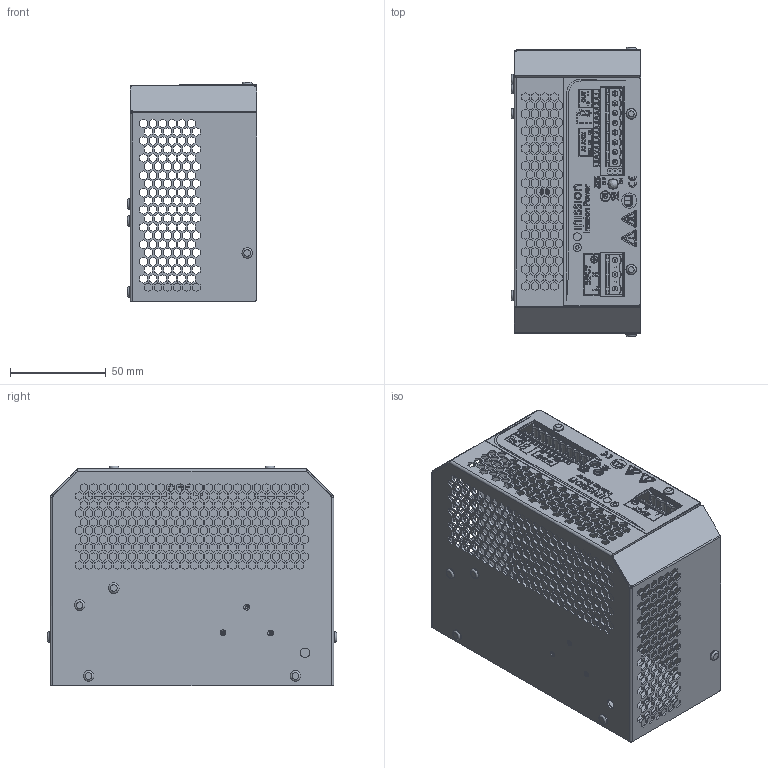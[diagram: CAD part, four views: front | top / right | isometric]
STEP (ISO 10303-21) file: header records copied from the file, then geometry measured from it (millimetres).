
FILE_DESCRIPTION (( 'STEP AP203' ), '1' );
FILE_NAME ('ADC-125W-3D-Model.STEP', '2026-05-19T12:12:42', ( '' ), ( '' ), 'SwSTEP 2.0', 'SolidWorks 2018', '' );
FILE_SCHEMA (( 'CONFIG_CONTROL_DESIGN' ));
Products named in the file (1): ADC-125W-3D-Model
Bounding box: 67.6 x 150.8 x 114.5 mm (x, y, z)
Volume: 88903.5 mm3; surface area: 174694.9 mm2
Topology: 94 solids, 94 shells, 5569 faces, 15662 edges, 10383 vertices
Faces by surface type: plane 4869, bspline 363, cylinder 230, cone 64, torus 43
Full cylindrical faces by diameter (mm): 0.138 x1, 0.38 x2, 0.731 x1, 1.85 x1, 2.5 x13, 2.8 x2, 3 x3, 3.3 x1, 3.5 x8, 3.8 x1, 4.25 x2, 4.9 x1, 5 x4, 5.5 x10, 7.938 x1
Entity records: 195653 total; most frequent: CARTESIAN_POINT 52523, ORIENTED_EDGE 30950, DIRECTION 25597, EDGE_CURVE 15475, LINE 14119, VECTOR 14119, VERTEX_POINT 10319, EDGE_LOOP 7058
